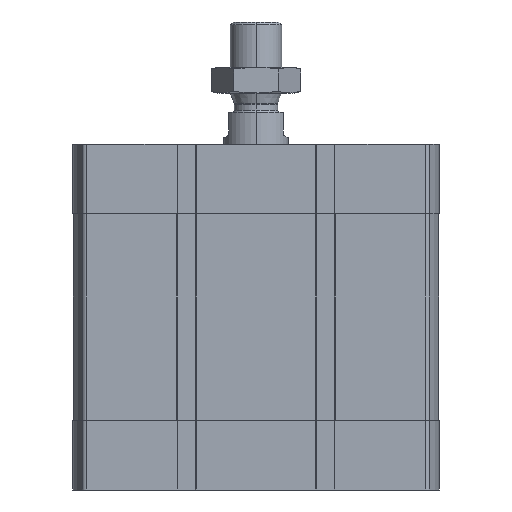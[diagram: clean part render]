
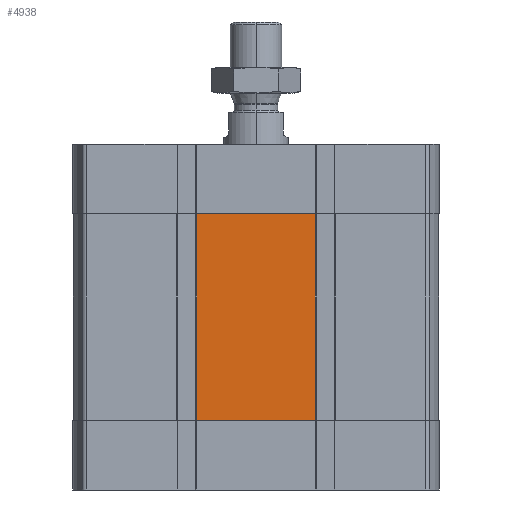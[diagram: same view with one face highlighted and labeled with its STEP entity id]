
A CAD part, left-side view. The second image highlights one B-rep face of the part: STEP entity #4938.
In plain terms, the highlighted planar face has unit normal (-1, 0, 0).
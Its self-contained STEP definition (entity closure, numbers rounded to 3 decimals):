
#166 = CARTESIAN_POINT ( 'NONE',  ( -56.5, 18.345, -85.5 ) ) ;
#237 = ORIENTED_EDGE ( 'NONE', *, *, #12939, .F. ) ;
#532 = VECTOR ( 'NONE', #16693, 1000. ) ;
#1112 = FACE_OUTER_BOUND ( 'NONE', #5643, .T. ) ;
#1231 = AXIS2_PLACEMENT_3D ( 'NONE', #14318, #3146, #20967 ) ;
#1471 = ORIENTED_EDGE ( 'NONE', *, *, #18133, .F. ) ;
#2474 = LINE ( 'NONE', #8803, #3952 ) ;
#2867 = VERTEX_POINT ( 'NONE', #5047 ) ;
#3146 = DIRECTION ( 'NONE',  ( -1., 0., 0. ) ) ;
#3952 = VECTOR ( 'NONE', #12241, 1000. ) ;
#4650 = PLANE ( 'NONE',  #1231 ) ;
#4658 = CARTESIAN_POINT ( 'NONE',  ( -56.5, -18.345, -21.5 ) ) ;
#4938 = ADVANCED_FACE ( 'NONE', ( #1112 ), #4650, .T. ) ;
#4972 = DIRECTION ( 'NONE',  ( 0., 0., 1. ) ) ;
#5047 = CARTESIAN_POINT ( 'NONE',  ( -56.5, 18.345, -21.5 ) ) ;
#5433 = VERTEX_POINT ( 'NONE', #21014 ) ;
#5643 = EDGE_LOOP ( 'NONE', ( #237, #1471, #18629, #6676 ) ) ;
#6676 = ORIENTED_EDGE ( 'NONE', *, *, #18707, .T. ) ;
#7394 = VERTEX_POINT ( 'NONE', #4658 ) ;
#8803 = CARTESIAN_POINT ( 'NONE',  ( -56.5, -18.345, -85.5 ) ) ;
#10436 = VECTOR ( 'NONE', #4972, 1000. ) ;
#10685 = CARTESIAN_POINT ( 'NONE',  ( -56.5, 18.345, -21.5 ) ) ;
#12241 = DIRECTION ( 'NONE',  ( 0., 0., 1. ) ) ;
#12850 = VECTOR ( 'NONE', #20461, 1000. ) ;
#12939 = EDGE_CURVE ( 'NONE', #2867, #7394, #15515, .T. ) ;
#13327 = EDGE_CURVE ( 'NONE', #14258, #5433, #16255, .T. ) ;
#14258 = VERTEX_POINT ( 'NONE', #16154 ) ;
#14318 = CARTESIAN_POINT ( 'NONE',  ( -56.5, 18.345, -85.5 ) ) ;
#14427 = LINE ( 'NONE', #20970, #10436 ) ;
#15515 = LINE ( 'NONE', #10685, #12850 ) ;
#16154 = CARTESIAN_POINT ( 'NONE',  ( -56.5, 18.345, -85.5 ) ) ;
#16255 = LINE ( 'NONE', #166, #532 ) ;
#16693 = DIRECTION ( 'NONE',  ( 0., -1., 0. ) ) ;
#18133 = EDGE_CURVE ( 'NONE', #14258, #2867, #14427, .T. ) ;
#18629 = ORIENTED_EDGE ( 'NONE', *, *, #13327, .T. ) ;
#18707 = EDGE_CURVE ( 'NONE', #5433, #7394, #2474, .T. ) ;
#20461 = DIRECTION ( 'NONE',  ( 0., -1., 0. ) ) ;
#20967 = DIRECTION ( 'NONE',  ( 0., 0., 1. ) ) ;
#20970 = CARTESIAN_POINT ( 'NONE',  ( -56.5, 18.345, -85.5 ) ) ;
#21014 = CARTESIAN_POINT ( 'NONE',  ( -56.5, -18.345, -85.5 ) ) ;
